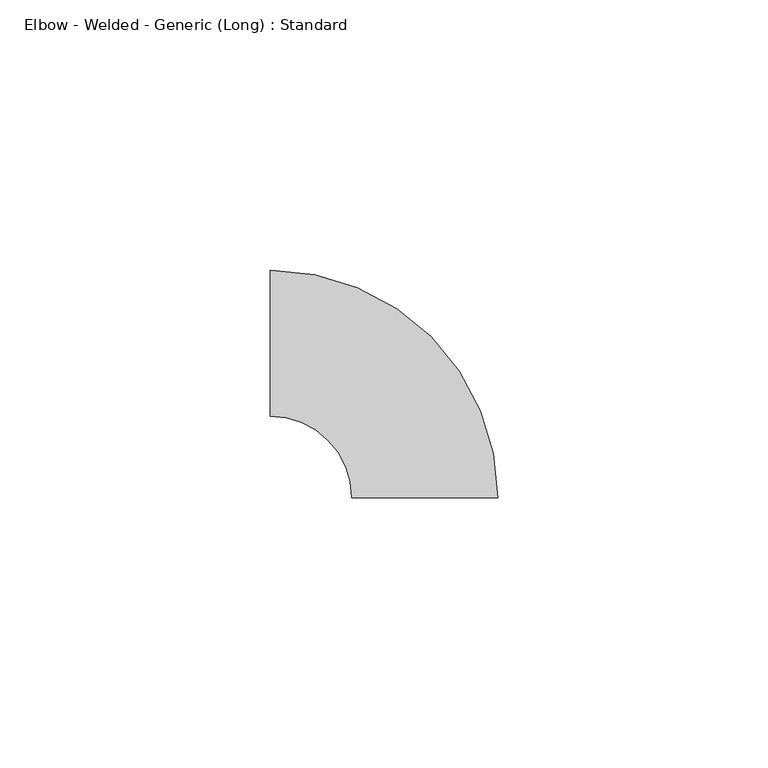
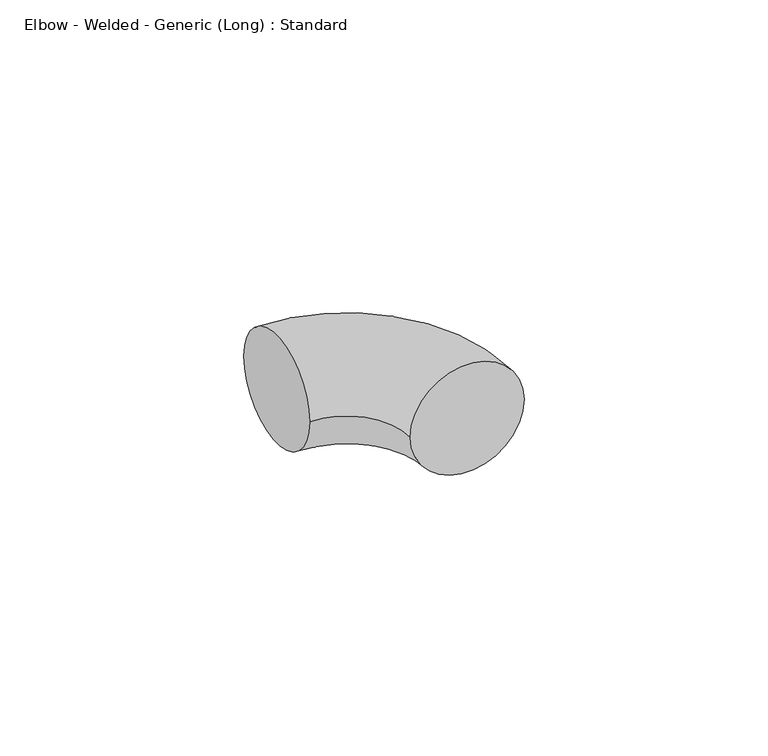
"""IFC4 building model written with IfcOpenShell, lengths in millimetres: pipe fitting geometry, Elbow - Welded - Generic (Long) : Standard."""

from ifc_helpers import new_model, si_unit, point, frame, origin, place, context, project, spatial, circle_curve, ellipse_curve, trimmed, source, transform, mapped, element, save
from ifc_brep_helpers import plane_surface, revolved_surface, advanced_brep


def elbow_welded_generic_long_standard_87bd790d(model_context):
    return source(origin(), model_context, "Body", "AdvancedBrep", [
        advanced_brep(
        [(-28.575, 13.49375, 0.0), (-28.575, -13.49375, 0.0), (13.49375, -28.575, 0.0), (-13.49375, -28.575, 0.0)],
        [
            (0, 1, circle_curve(frame((-28.575, 0.0, 0.0), z_axis=(-1.0, 0.0, 0.0), x_axis=(0.0, -1.0, 0.0)), 13.49375)),
            (1, 0, circle_curve(frame((-28.575, 0.0, 0.0), z_axis=(-1.0, 0.0, 0.0), x_axis=(0.0, -1.0, 0.0)), 13.49375)),
            (2, 3, circle_curve(frame((0.0, -28.575, 0.0), z_axis=(0.0, -1.0, 0.0), x_axis=(-1.0, 0.0, 0.0)), 13.49375)),
            (3, 2, circle_curve(frame((0.0, -28.575, 0.0), z_axis=(0.0, -1.0, 0.0), x_axis=(-1.0, 0.0, 0.0)), 13.49375)),
            (2, 0, circle_curve(frame((-28.575, -28.575, 0.0), z_axis=(0.0, 0.0, 1.0), x_axis=(0.0, 1.0, 0.0)), 42.06875)),
            (1, 3, circle_curve(frame((-28.575, -28.575, 0.0), z_axis=(0.0, 0.0, -1.0), x_axis=(0.0, 1.0, 0.0)), 15.08125)),
        ],
        [
            plane_surface(frame((-28.575, 0.0, 0.0), z_axis=(-1.0, 0.0, 0.0), x_axis=(0.0, 0.0, 1.0))),
            plane_surface(frame((0.0, -28.575, 0.0), z_axis=(0.0, -1.0, 0.0), x_axis=(0.0, 0.0, 1.0))),
            revolved_surface(trimmed(ellipse_curve(frame((-28.575, 0.0, 0.0), z_axis=(1.0, 0.0, 0.0), x_axis=(0.0, -1.0, 0.0)), 13.49375, 13.49375), [point((-28.575, 13.49375, 0.0))], [point((-28.575, -13.49375, 0.0))], True, "CARTESIAN"), (-28.575, -28.575, 0.0), (0.0, 0.0, 1.0)),
            revolved_surface(trimmed(ellipse_curve(frame((-28.575, 0.0, 0.0), z_axis=(1.0, 0.0, 0.0), x_axis=(0.0, -1.0, 0.0)), 13.49375, 13.49375), [point((-28.575, -13.49375, 0.0))], [point((-28.575, 13.49375, 0.0))], True, "CARTESIAN"), (-28.575, -28.575, 0.0), (0.0, 0.0, 1.0)),
        ],
        [
            (0, [[1, 2]]),
            (1, [[3, 4]]),
            (2, [[-3, 5, -2, 6]]),
            (3, [[-4, -6, -1, -5]]),
        ],
    ),
    ])


if __name__ == "__main__":
    model = new_model("IFC4")
    model_context = context("Model", 3, world=origin())
    ifc_project = project(units=[si_unit("LENGTHUNIT", "METRE", prefix="MILLI")], contexts=[model_context])
    site = spatial("IfcSite", under=ifc_project)
    building = spatial("IfcBuilding", under=site)
    placement = place(None, origin())
    elbow_welded_generic_long_standard_shape = elbow_welded_generic_long_standard_87bd790d(model_context)
    element("IfcPipeFitting", 1, ObjectType="Elbow - Welded - Generic (Long) : Standard", at=placement, inside=building, context=model_context, shape_type="MappedRepresentation", body=[
        mapped(elbow_welded_generic_long_standard_shape, transform((0.0, 0.0, 0.0), x_axis=(1.0, 0.0, 0.0), y_axis=(0.0, 1.0, 0.0), z_axis=(0.0, 0.0, 1.0))),
    ])
    save(model, "model.ifc")
